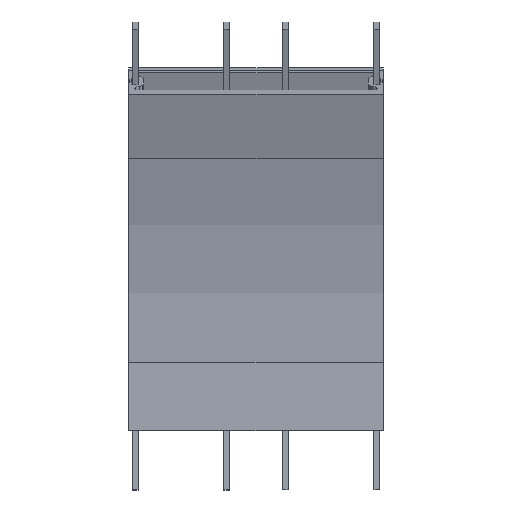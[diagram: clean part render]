
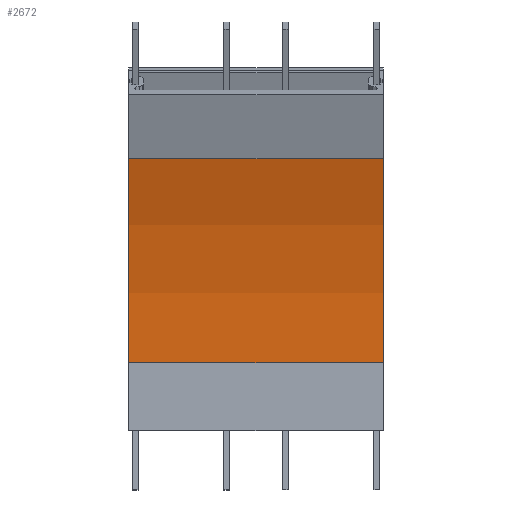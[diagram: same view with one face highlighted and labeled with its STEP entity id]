
A CAD part, top view. The second image highlights one B-rep face of the part: STEP entity #2672.
In plain terms, the highlighted cylindrical face has radius 703.5 mm (diameter 1407 mm), a partial arc.
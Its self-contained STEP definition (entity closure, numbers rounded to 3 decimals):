
#1192 = CARTESIAN_POINT ( 'NONE',  ( -150., 80., 46.5 ) ) ;
#1546 = VERTEX_POINT ( 'NONE', #2736 ) ;
#2385 = EDGE_CURVE ( 'NONE', #4224, #5013, #6819, .T. ) ;
#2672 = ADVANCED_FACE ( 'NONE', ( #5723 ), #3324, .F. ) ;
#2736 = CARTESIAN_POINT ( 'NONE',  ( 150., 320.611, 88.926 ) ) ;
#2976 = CARTESIAN_POINT ( 'NONE',  ( -150., 80., 750. ) ) ;
#3150 = DIRECTION ( 'NONE',  ( -1., 0., 0. ) ) ;
#3250 = DIRECTION ( 'NONE',  ( 0., 0.342, -0.94 ) ) ;
#3324 = CYLINDRICAL_SURFACE ( 'NONE', #8804, 703.5 ) ;
#3353 = AXIS2_PLACEMENT_3D ( 'NONE', #2976, #7693, #6155 ) ;
#3390 = EDGE_CURVE ( 'NONE', #9794, #5013, #9803, .T. ) ;
#3499 = EDGE_CURVE ( 'NONE', #1546, #4224, #9469, .T. ) ;
#3843 = DIRECTION ( 'NONE',  ( -1., 0., 0. ) ) ;
#4117 = DIRECTION ( 'NONE',  ( 0., 0., 1. ) ) ;
#4224 = VERTEX_POINT ( 'NONE', #9917 ) ;
#4404 = LINE ( 'NONE', #9938, #7968 ) ;
#4664 = CARTESIAN_POINT ( 'NONE',  ( 150., 80., 750. ) ) ;
#5013 = VERTEX_POINT ( 'NONE', #1192 ) ;
#5262 = DIRECTION ( 'NONE',  ( -1., 0., 0. ) ) ;
#5723 = FACE_OUTER_BOUND ( 'NONE', #5724, .T. ) ;
#5724 = EDGE_LOOP ( 'NONE', ( #6655, #7384, #5847, #7724 ) ) ;
#5823 = CARTESIAN_POINT ( 'NONE',  ( 0., 80., 750. ) ) ;
#5847 = ORIENTED_EDGE ( 'NONE', *, *, #7512, .T. ) ;
#6155 = DIRECTION ( 'NONE',  ( 0., 0.342, -0.94 ) ) ;
#6457 = DIRECTION ( 'NONE',  ( -1., 0., 0. ) ) ;
#6655 = ORIENTED_EDGE ( 'NONE', *, *, #2385, .F. ) ;
#6819 = LINE ( 'NONE', #7541, #7761 ) ;
#7384 = ORIENTED_EDGE ( 'NONE', *, *, #3499, .F. ) ;
#7512 = EDGE_CURVE ( 'NONE', #1546, #9794, #4404, .T. ) ;
#7541 = CARTESIAN_POINT ( 'NONE',  ( -150., 80., 46.5 ) ) ;
#7587 = CARTESIAN_POINT ( 'NONE',  ( -150., 320.611, 88.926 ) ) ;
#7659 = AXIS2_PLACEMENT_3D ( 'NONE', #4664, #3150, #3250 ) ;
#7693 = DIRECTION ( 'NONE',  ( -1., 0., 0. ) ) ;
#7724 = ORIENTED_EDGE ( 'NONE', *, *, #3390, .T. ) ;
#7761 = VECTOR ( 'NONE', #5262, 1000. ) ;
#7968 = VECTOR ( 'NONE', #3843, 1000. ) ;
#8804 = AXIS2_PLACEMENT_3D ( 'NONE', #5823, #6457, #4117 ) ;
#9469 = CIRCLE ( 'NONE', #7659, 703.5 ) ;
#9794 = VERTEX_POINT ( 'NONE', #7587 ) ;
#9803 = CIRCLE ( 'NONE', #3353, 703.5 ) ;
#9917 = CARTESIAN_POINT ( 'NONE',  ( 150., 80., 46.5 ) ) ;
#9938 = CARTESIAN_POINT ( 'NONE',  ( -150., 320.611, 88.926 ) ) ;
